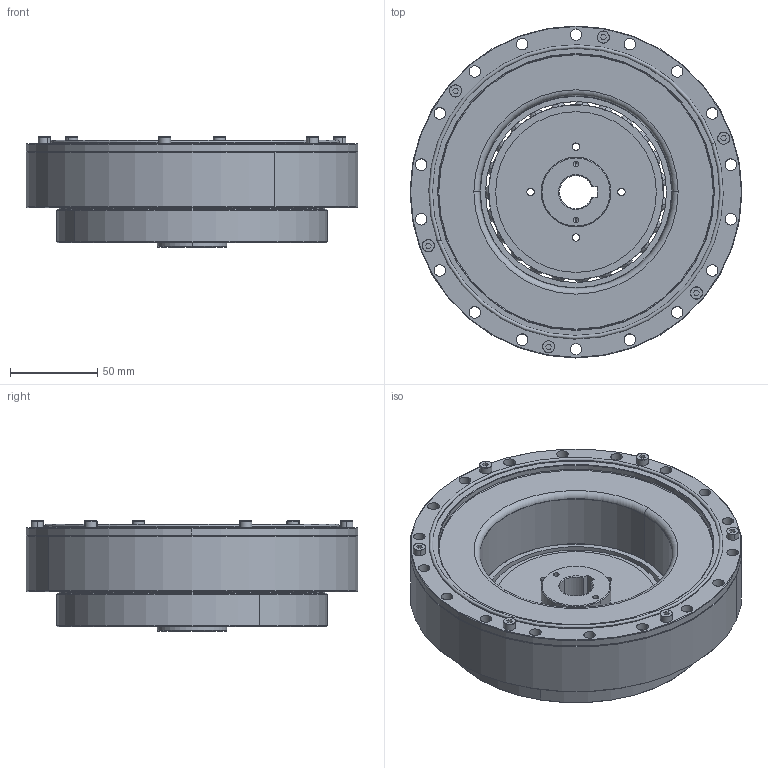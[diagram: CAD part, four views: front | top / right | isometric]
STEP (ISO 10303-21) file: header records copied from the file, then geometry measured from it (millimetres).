
FILE_DESCRIPTION (( 'STEP AP203' ), '1' );
FILE_NAME ('FHS-45-XXX-SJ.STEP', '2023-01-17T06:10:23', ( '微软用户' ), ( '微软中国' ), 'SwSTEP 2.0', 'SolidWorks 2016', '' );
FILE_SCHEMA (( 'CONFIG_CONTROL_DESIGN' ));
Length unit declared in the file: millimetre
Products named in the file (1): FHS-45-XXX-SJ
Bounding box: 190 x 190 x 63 mm (x, y, z)
Volume: 799054 mm3; surface area: 335261.9 mm2
Topology: 46 solids, 46 shells, 832 faces, 2035 edges, 1263 vertices
Faces by surface type: cylinder 367, plane 193, cone 140, torus 86, sphere 46
Entity records: 23879 total; most frequent: DIRECTION 4662, CARTESIAN_POINT 3911, ORIENTED_EDGE 3744, AXIS2_PLACEMENT_3D 1961, EDGE_CURVE 1872, VERTEX_POINT 1194, CIRCLE 1128, EDGE_LOOP 1044
